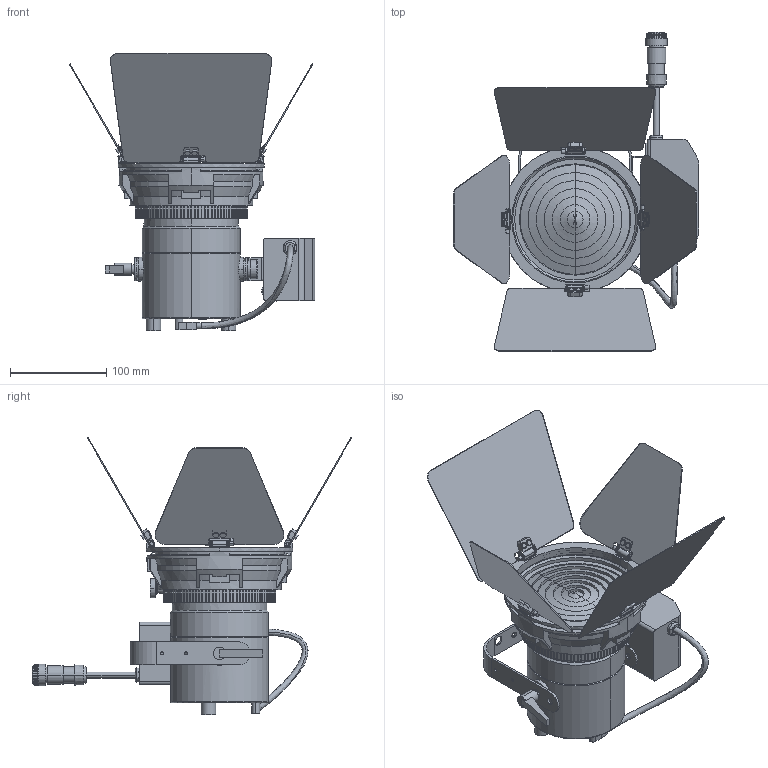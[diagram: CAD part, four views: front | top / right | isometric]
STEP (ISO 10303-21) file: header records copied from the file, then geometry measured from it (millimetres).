
FILE_DESCRIPTION (( 'STEP AP203' ), '1' );
FILE_NAME ('P3F(Clamp-W) Hanging.STEP', '2024-07-11T00:06:59', ( '' ), ( '' ), 'SwSTEP 2.0', 'SolidWorks 2014', '' );
FILE_SCHEMA (( 'CONFIG_CONTROL_DESIGN' ));
Length unit declared in the file: millimetre
Products named in the file (6): P3 Color(White) - Yoke for Track and Clamp; 5 inch Fresnel Zoom Lens (for Clamp-W); P3 Color(White) - Light Body; PSU 90W Clamp Mount_Hanging (for P3F-W); P3F(Clamp-W) Hanging; 5 inch 4-Leaf Barndoor (for Clamp-W)
Assembly tree (5 placements, depth 2):
  P3F(Clamp-W) Hanging
    P3 Color(White) - Yoke for Track and Clamp
    P3 Color(White) - Light Body
    5 inch Fresnel Zoom Lens (for Clamp-W)
    5 inch 4-Leaf Barndoor (for Clamp-W)
    PSU 90W Clamp Mount_Hanging (for P3F-W)
Bounding box: 255.35 x 332.22 x 288.72 mm (x, y, z)
Volume: 1765579 mm3; surface area: 384931.3 mm2
Topology: 82 solids, 85 shells, 2036 faces, 5188 edges, 3394 vertices
Faces by surface type: plane 943, cylinder 763, bspline 223, cone 97, torus 10
Entity records: 71454 total; most frequent: CARTESIAN_POINT 21759, ORIENTED_EDGE 10356, DIRECTION 9952, EDGE_CURVE 5178, AXIS2_PLACEMENT_3D 3503, VERTEX_POINT 3394, VECTOR 2946, LINE 2946
